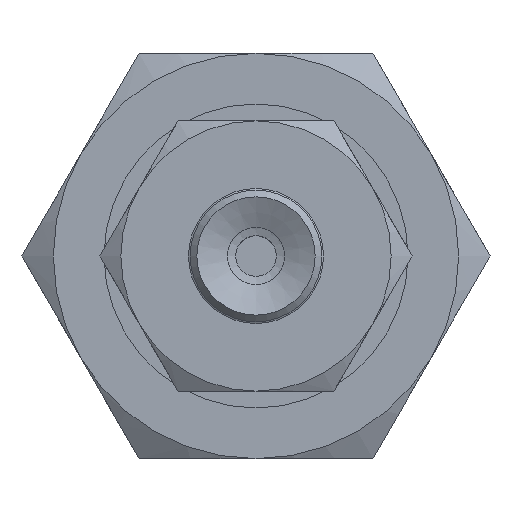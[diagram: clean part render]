
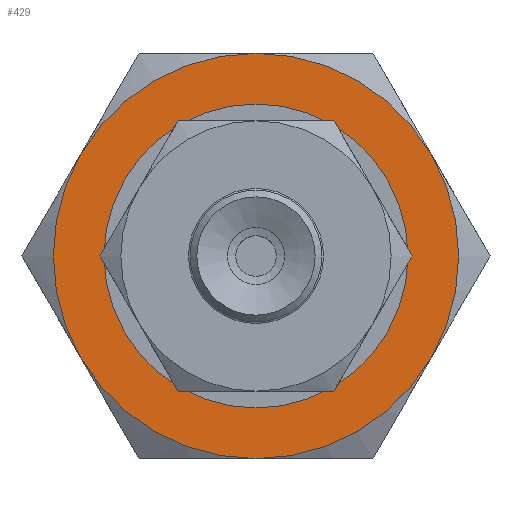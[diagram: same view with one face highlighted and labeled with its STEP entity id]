
A CAD part, front view. The second image highlights one B-rep face of the part: STEP entity #429.
In plain terms, the highlighted planar face has unit normal (0, -1, 0) as drawn and (-1, 0, 0) by its records, which use the part's own axes.
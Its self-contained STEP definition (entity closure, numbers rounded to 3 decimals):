
#429=ADVANCED_FACE('',(#585,#586),#587,.F.);
#585=FACE_BOUND('',#864,.T.);
#586=FACE_OUTER_BOUND('',#865,.T.);
#587=PLANE('',#866);
#864=EDGE_LOOP('',(#1320));
#865=EDGE_LOOP('',(#1321,#1322,#1323,#1324,#1325,#1326));
#866=AXIS2_PLACEMENT_3D('',#1327,#1328,#1329);
#1320=ORIENTED_EDGE('',*,*,#1925,.T.);
#1321=ORIENTED_EDGE('',*,*,#1930,.F.);
#1322=ORIENTED_EDGE('',*,*,#1895,.F.);
#1323=ORIENTED_EDGE('',*,*,#1893,.F.);
#1324=ORIENTED_EDGE('',*,*,#1931,.F.);
#1325=ORIENTED_EDGE('',*,*,#1929,.F.);
#1326=ORIENTED_EDGE('',*,*,#1928,.F.);
#1327=CARTESIAN_POINT('',(0.,0.0,0.0));
#1328=DIRECTION('',(1.0,0.0,0.0));
#1329=DIRECTION('',(0.0,1.0,0.0));
#1893=EDGE_CURVE('',#2126,#2123,#2127,.T.);
#1895=EDGE_CURVE('',#2123,#2129,#2130,.T.);
#1925=EDGE_CURVE('',#2178,#2178,#2179,.T.);
#1928=EDGE_CURVE('',#2159,#2180,#2183,.T.);
#1929=EDGE_CURVE('',#2180,#2173,#2184,.T.);
#1930=EDGE_CURVE('',#2129,#2159,#2185,.T.);
#1931=EDGE_CURVE('',#2173,#2126,#2186,.T.);
#2123=VERTEX_POINT('',#2521);
#2126=VERTEX_POINT('',#2544);
#2127=CIRCLE('',#2545,6.0);
#2129=VERTEX_POINT('',#2557);
#2130=CIRCLE('',#2558,6.0);
#2159=VERTEX_POINT('',#2679);
#2173=VERTEX_POINT('',#2745);
#2178=VERTEX_POINT('',#2770);
#2179=CIRCLE('',#2771,4.0);
#2180=VERTEX_POINT('',#2772);
#2183=CIRCLE('',#2795,6.0);
#2184=CIRCLE('',#2796,6.0);
#2185=CIRCLE('',#2797,6.0);
#2186=CIRCLE('',#2798,6.0);
#2521=CARTESIAN_POINT('',(0.,0.0,-6.0));
#2544=CARTESIAN_POINT('',(0.,-5.196,-3.0));
#2545=AXIS2_PLACEMENT_3D('',#3252,#3253,#3254);
#2557=CARTESIAN_POINT('',(0.,5.196,-3.0));
#2558=AXIS2_PLACEMENT_3D('',#3255,#3256,#3257);
#2679=CARTESIAN_POINT('',(0.,5.196,3.0));
#2745=CARTESIAN_POINT('',(0.,-5.196,3.0));
#2770=CARTESIAN_POINT('',(0.,0.0,-4.0));
#2771=AXIS2_PLACEMENT_3D('',#3289,#3290,#3291);
#2772=CARTESIAN_POINT('',(0.,0.0,6.0));
#2795=AXIS2_PLACEMENT_3D('',#3292,#3293,#3294);
#2796=AXIS2_PLACEMENT_3D('',#3295,#3296,#3297);
#2797=AXIS2_PLACEMENT_3D('',#3298,#3299,#3300);
#2798=AXIS2_PLACEMENT_3D('',#3301,#3302,#3303);
#3252=CARTESIAN_POINT('',(0.,0.0,0.0));
#3253=DIRECTION('',(1.0,0.0,0.0));
#3254=DIRECTION('',(0.0,0.0,-1.0));
#3255=CARTESIAN_POINT('',(0.,0.0,0.0));
#3256=DIRECTION('',(1.0,0.0,0.0));
#3257=DIRECTION('',(0.0,0.0,-1.0));
#3289=CARTESIAN_POINT('',(0.,0.0,0.0));
#3290=DIRECTION('',(1.0,0.0,0.0));
#3291=DIRECTION('',(0.0,0.0,-1.0));
#3292=CARTESIAN_POINT('',(0.,0.0,0.0));
#3293=DIRECTION('',(1.0,0.0,0.0));
#3294=DIRECTION('',(0.0,0.0,-1.0));
#3295=CARTESIAN_POINT('',(0.,0.0,0.0));
#3296=DIRECTION('',(1.0,0.0,0.0));
#3297=DIRECTION('',(0.0,0.0,-1.0));
#3298=CARTESIAN_POINT('',(0.,0.0,0.0));
#3299=DIRECTION('',(1.0,0.0,0.0));
#3300=DIRECTION('',(0.0,0.0,-1.0));
#3301=CARTESIAN_POINT('',(0.,0.0,0.0));
#3302=DIRECTION('',(1.0,0.0,0.0));
#3303=DIRECTION('',(0.0,0.0,-1.0));
